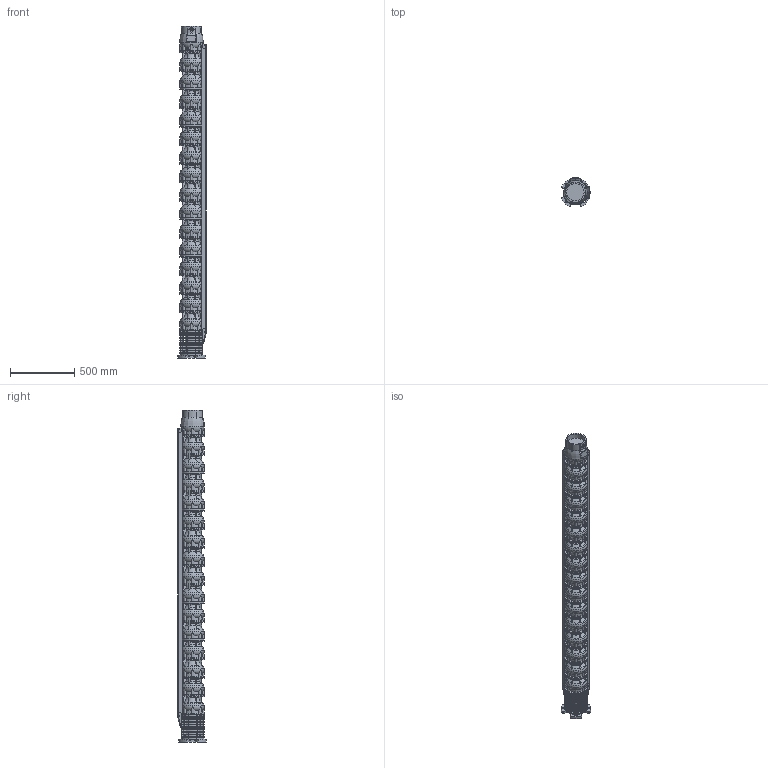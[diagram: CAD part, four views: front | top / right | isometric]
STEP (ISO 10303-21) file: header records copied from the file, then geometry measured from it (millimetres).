
FILE_DESCRIPTION(/* description */ ('Unknown'),/* implementation_level */ '2;1');
FILE_NAME(/* name */ 'VSI134-15_WR_M10-50_SME',/* time_stamp */ '2023-09-14T14:56:51+02:00',/* author */ ('Unknown'),/* organization */ ('Unknown'),/* preprocessor_version */ 'ST-DEVELOPER v18.102',/* originating_system */ 'Solid Edge',/* authorisation */ 'Unknown');
FILE_SCHEMA (('AUTOMOTIVE_DESIGN {1 0 10303 214 3 1 1}'));
Products named in the file (12): VSI134-15_WR_M10-50_SME; VSI134_testata; VSI134_diffusore; VSI134_supporto_8×8; VSI134_adattatore_8×10; VSI134_filtro_A; VSI134_filtro_B; VSI134_terminale_top_copricavo_medio; M5X8_UNI7687; MID 134-15; VSI134_terminale_bottom_copricavo_medio; VSI134_giunto_8×10
Assembly tree (39 placements, depth 2):
  VSI134-15_WR_M10-50_SME
    VSI134_testata
    VSI134_diffusore  x15
    VSI134_supporto_8×8
    VSI134_adattatore_8×10
    VSI134_filtro_A
    VSI134_filtro_B
    VSI134_terminale_top_copricavo_medio  x2
    M5X8_UNI7687  x12
    MID 134-15  x2
    VSI134_terminale_bottom_copricavo_medio  x2
    VSI134_giunto_8×10
Bounding box: 221.78 x 221.78 x 2593 mm (x, y, z)
Volume: 48472429 mm3; surface area: 4375931.1 mm2
Topology: 78 solids, 80 shells, 5107 faces, 14357 edges, 9587 vertices
Faces by surface type: plane 3624, torus 701, cylinder 665, cone 72, bspline 31, sphere 14
Full cylindrical faces by diameter (mm): 2.4 x2, 3 x2, 4.2 x16, 5 x12, 5.5 x8, 14 x4, 16 x4, 17.5 x4, 26 x1, 30 x4, 44 x1, 65 x1, 69 x1, 74 x1, 84 x1, 98 x1, 127 x2, 135.472 x1, 157 x1, 182 x16
Entity records: 85395 total; most frequent: CARTESIAN_POINT 18304, ORIENTED_EDGE 13946, DIRECTION 13472, EDGE_CURVE 6973, VERTEX_POINT 4707, AXIS2_PLACEMENT_3D 4614, LINE 4244, VECTOR 4244
